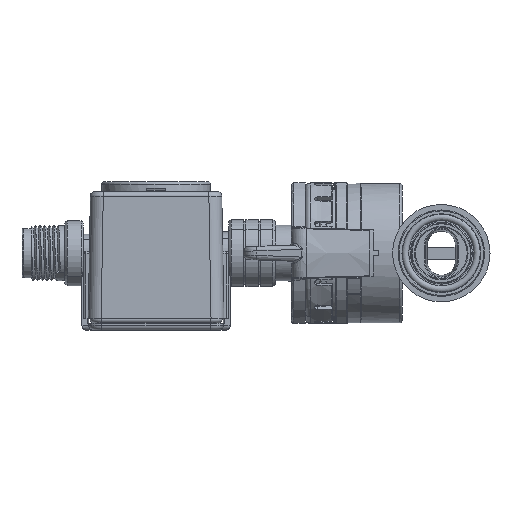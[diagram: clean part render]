
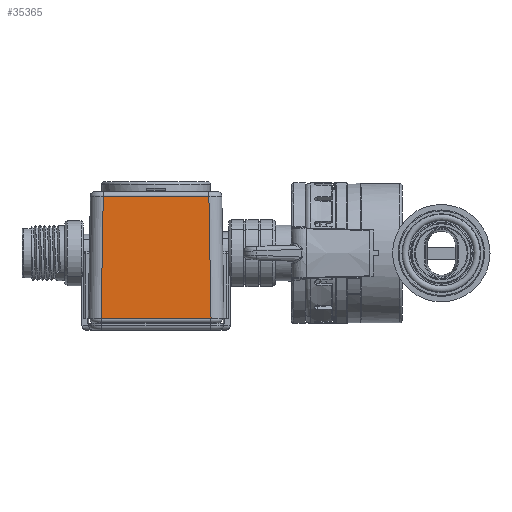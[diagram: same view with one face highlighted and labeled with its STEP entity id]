
A CAD part, left-side view. The second image highlights one B-rep face of the part: STEP entity #35365.
In plain terms, the highlighted planar face has unit normal (-1, 0, 0.018).
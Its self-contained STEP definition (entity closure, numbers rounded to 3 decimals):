
#1688=FACE_OUTER_BOUND('',#3848,.T.);
#2969=PLANE('',#40606);
#3848=EDGE_LOOP('',(#9828,#9829,#9830,#9831));
#9828=ORIENTED_EDGE('',*,*,#17264,.T.);
#9829=ORIENTED_EDGE('',*,*,#17267,.F.);
#9830=ORIENTED_EDGE('',*,*,#17268,.F.);
#9831=ORIENTED_EDGE('',*,*,#17015,.T.);
#17015=EDGE_CURVE('',#37786,#37783,#20757,.T.);
#17264=EDGE_CURVE('',#37783,#37939,#20950,.T.);
#17267=EDGE_CURVE('',#37941,#37939,#20952,.T.);
#17268=EDGE_CURVE('',#37786,#37941,#20953,.T.);
#20757=LINE('',#55807,#22553);
#20950=LINE('',#56353,#22746);
#20952=LINE('',#56359,#22748);
#20953=LINE('',#56361,#22749);
#22553=VECTOR('',#44372,1.);
#22746=VECTOR('',#44857,1.);
#22748=VECTOR('',#44863,1.);
#22749=VECTOR('',#44864,1.);
#35365=ADVANCED_FACE('',(#1688),#2969,.F.);
#37783=VERTEX_POINT('',#55783);
#37786=VERTEX_POINT('',#55808);
#37939=VERTEX_POINT('',#56354);
#37941=VERTEX_POINT('',#56360);
#40606=AXIS2_PLACEMENT_3D('',#56362,#44865,#44866);
#44372=DIRECTION('',(0.,1.,0.));
#44857=DIRECTION('',(-0.017,0.017,-1.));
#44863=DIRECTION('',(0.,1.,0.));
#44864=DIRECTION('',(-0.017,-0.017,-1.));
#44865=DIRECTION('',(1.,0.,-0.017));
#44866=DIRECTION('',(0.017,0.,1.));
#55783=CARTESIAN_POINT('',(-65.714,53.096,12.249));
#55807=CARTESIAN_POINT('',(-65.714,49.065,12.249));
#55808=CARTESIAN_POINT('',(-65.714,30.364,12.249));
#56353=CARTESIAN_POINT('',(-66.269,53.651,-19.543));
#56354=CARTESIAN_POINT('',(-66.173,53.555,-14.045));
#56359=CARTESIAN_POINT('',(-66.173,49.065,-14.045));
#56360=CARTESIAN_POINT('',(-66.173,29.905,-14.045));
#56361=CARTESIAN_POINT('',(-66.269,29.809,-19.543));
#56362=CARTESIAN_POINT('',(-66.271,49.065,-19.623));
